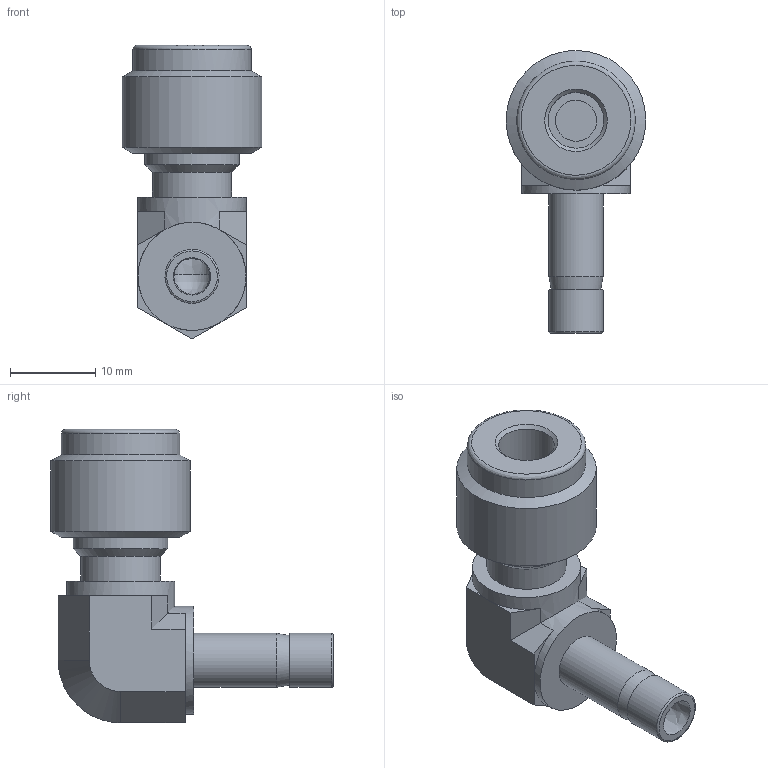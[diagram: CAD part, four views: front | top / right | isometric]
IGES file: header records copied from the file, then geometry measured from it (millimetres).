
Global section: file name: SAE-4; native system: Autodesk Inventor 2016; preprocessor: unknown; author: DESIGNPC2; date: 20151113.095252; units: millimetre
Bounding box: 16.37 x 33.2 x 34.48 mm (x, y, z)
Volume: 4634 mm3; surface area: 3180.6 mm2
Topology: 1 solids, 1 shells, 107 faces, 259 edges, 155 vertices
Faces by surface type: bspline 107
